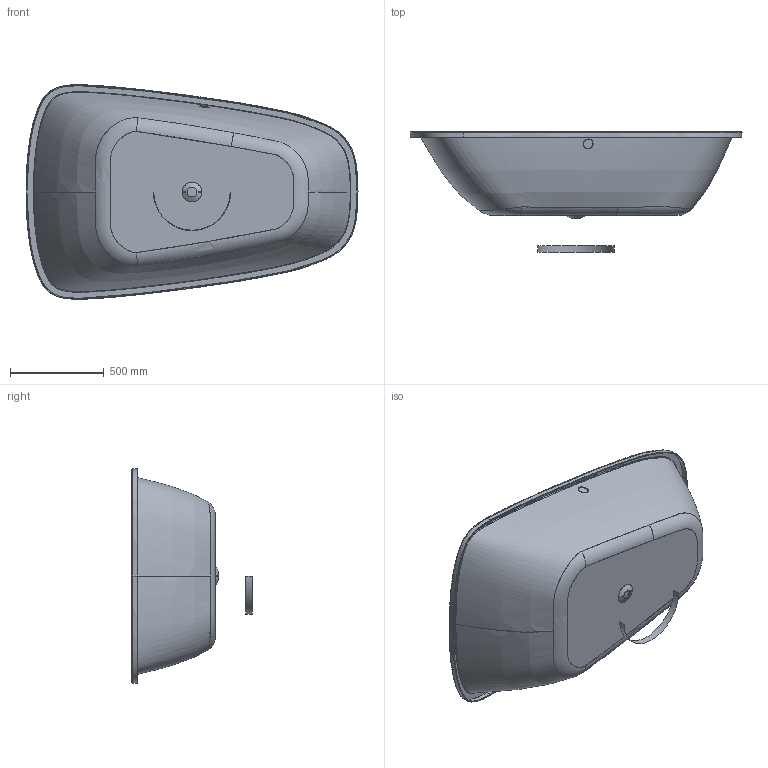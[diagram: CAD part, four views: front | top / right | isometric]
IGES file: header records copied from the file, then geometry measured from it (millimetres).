
Start section: SolidWorks IGES file using analytic representation for surfaces
Global section: file name: D:\Users\M.Szymanski\Desktop\Wanny\SINGLEBATH\03. do przegrania\WPP_SINGLEBATH_DUO_1766x1141.IGS; native system: SolidWorks 2011; preprocessor: SolidWorks 2011; author: M.Szymanski; date: 180723.073837; units: millimetre
Bounding box: 1766 x 641.1 x 1141 mm (x, y, z)
Surface area: 5879576.9 mm2 (no closed solid volume)
Topology: 0 solids, 0 shells, 57 faces, 2239 edges, 2236 vertices
Faces by surface type: bspline 41, revolution 16
